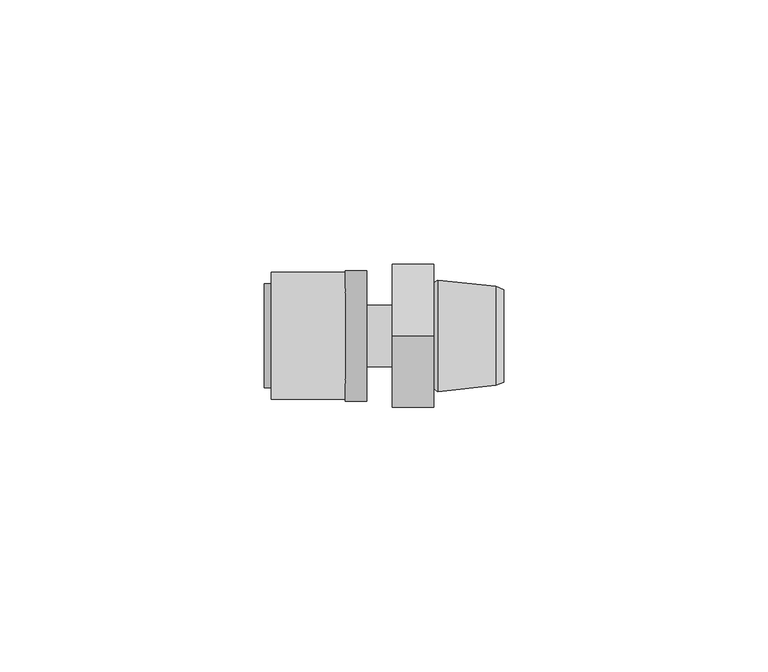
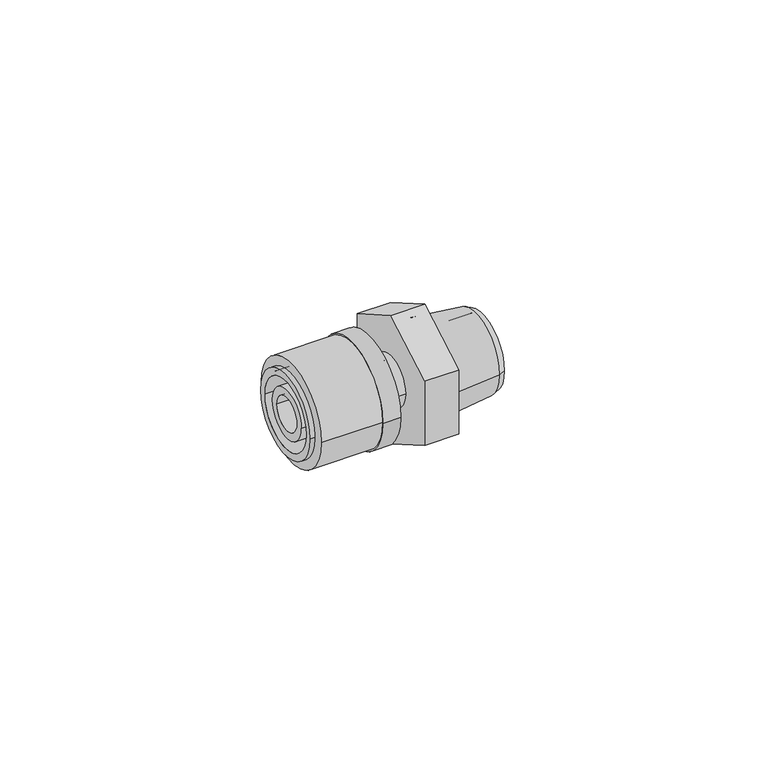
"""IFC4 building model written with IfcOpenShell, lengths in millimetres: pipe fitting geometry, FASTLOC_Adapter_LX, with external thread : FSL A C external CZ."""

from ifc_helpers import new_model, si_unit, point, frame, origin, origin_2d, place, context, project, spatial, polyline, circle_curve, trimmed, segment, composite_curve, outline, extrude, source, transform, mapped, element, save
from ifc_brep_helpers import plane_surface, cylinder_surface, revolved_surface, advanced_brep


def pipe_fitting_e93012df(model_context):
    return source(origin(), model_context, "Body", "SolidModel", [
        extrude(outline(composite_curve([segment(trimmed(circle_curve(origin_2d(), 12.0), [point((12.0, 0.0))], [point((-12.0, 0.0))], False, "CARTESIAN"), True, "CONTINUOUS"), segment(trimmed(circle_curve(origin_2d(), 12.0), [point((-12.0, 0.0))], [point((12.0, 0.0))], False, "CARTESIAN"), True, "CONTINUOUS")], self_intersect=False), holes=[composite_curve([segment(trimmed(circle_curve(origin_2d(), 8.85), [point((8.85, 0.0))], [point((-8.85, 0.0))], True, "CARTESIAN"), True, "CONTINUOUS"), segment(trimmed(circle_curve(origin_2d(), 8.85), [point((-8.85, 0.0))], [point((8.85, 0.0))], True, "CARTESIAN"), True, "CONTINUOUS")], self_intersect=False)]), frame((-22.9, 0.0, 0.0), z_axis=(1.0, 0.0, 0.0), x_axis=(0.0, 1.0, 0.0)), (0.0, 0.0, 1.0), 14.0),
        advanced_brep(
        [(-8.9, -12.35, 0.0), (-8.9, 12.35, 0.0), (-4.9, 12.35, 0.0), (-4.9, -12.35, 0.0), (-24.2, -9.85, 0.0), (-24.2, 9.85, 0.0), (-8.9, 9.85, 0.0), (-8.9, -9.85, 0.0), (-4.9, -8.15, 0.0), (-4.9, 8.15, 0.0), (-24.2, 8.15, 0.0), (-24.2, -8.15, 0.0)],
        [
            (0, 1, circle_curve(frame((-8.9, 0.0, 0.0), z_axis=(1.0, 0.0, 0.0), x_axis=(0.0, 1.0, 0.0)), 12.35)),
            (1, 2),
            (2, 3, circle_curve(frame((-4.9, 0.0, 0.0), z_axis=(-1.0, 0.0, 0.0), x_axis=(0.0, 1.0, 0.0)), 12.35)),
            (3, 0),
            (4, 5, circle_curve(frame((-24.2, 0.0, 0.0), z_axis=(1.0, 0.0, 0.0), x_axis=(0.0, 1.0, 0.0)), 9.85)),
            (5, 6),
            (6, 7, circle_curve(frame((-8.9, 0.0, 0.0), z_axis=(-1.0, 0.0, 0.0), x_axis=(0.0, 1.0, 0.0)), 9.85)),
            (7, 4),
            (8, 9, circle_curve(frame((-4.9, 0.0, 0.0), z_axis=(1.0, 0.0, 0.0), x_axis=(0.0, 1.0, 0.0)), 8.15)),
            (9, 10),
            (10, 11, circle_curve(frame((-24.2, 0.0, 0.0), z_axis=(-1.0, 0.0, 0.0), x_axis=(0.0, 1.0, 0.0)), 8.15)),
            (11, 8),
            (1, 0, circle_curve(frame((-8.9, 0.0, 0.0), z_axis=(1.0, 0.0, 0.0), x_axis=(0.0, -1.0, 0.0)), 12.35)),
            (3, 2, circle_curve(frame((-4.9, 0.0, 0.0), z_axis=(-1.0, 0.0, 0.0), x_axis=(0.0, -1.0, 0.0)), 12.35)),
            (6, 7, circle_curve(frame((-8.9, 0.0, 0.0), z_axis=(1.0, 0.0, 0.0), x_axis=(0.0, -1.0, 0.0)), 9.85)),
            (5, 4, circle_curve(frame((-24.2, 0.0, 0.0), z_axis=(1.0, 0.0, 0.0), x_axis=(0.0, -1.0, 0.0)), 9.85)),
            (10, 11, circle_curve(frame((-24.2, 0.0, 0.0), z_axis=(1.0, 0.0, 0.0), x_axis=(0.0, -1.0, 0.0)), 8.15)),
            (9, 8, circle_curve(frame((-4.9, 0.0, 0.0), z_axis=(1.0, 0.0, 0.0), x_axis=(0.0, -1.0, 0.0)), 8.15)),
        ],
        [
            cylinder_surface(frame((-4.9, 0.0, 0.0), z_axis=(-1.0, 0.0, 0.0), x_axis=(0.0, 1.0, 0.0)), 12.35),
            cylinder_surface(frame((-4.9, 0.0, 0.0), z_axis=(-1.0, 0.0, 0.0), x_axis=(0.0, 1.0, 0.0)), 9.85),
            revolved_surface(polyline([(-24.199999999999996, 8.15, 0.0), (-4.9, 8.15, 0.0)]), (-4.9, 0.0, 0.0), (-1.0, 0.0, 0.0)),
            cylinder_surface(frame((-4.9, 0.0, 0.0), z_axis=(-1.0, 0.0, 0.0), x_axis=(0.0, -1.0, 0.0)), 12.35),
            plane_surface(frame((-8.9, 0.0, 0.0), z_axis=(-1.0, 0.0, 0.0), x_axis=(0.0, -1.0, 0.0))),
            cylinder_surface(frame((-4.9, 0.0, 0.0), z_axis=(-1.0, 0.0, 0.0), x_axis=(0.0, -1.0, 0.0)), 9.85),
            plane_surface(frame((-24.2, 0.0, 0.0), z_axis=(-1.0, 0.0, 0.0), x_axis=(0.0, -1.0, 0.0))),
            revolved_surface(polyline([(-24.199999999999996, -8.15, 0.0), (-4.9, -8.15, 0.0)]), (-4.9, 0.0, 0.0), (-1.0, 0.0, 0.0)),
            plane_surface(frame((-4.9, 0.0, 0.0), z_axis=(1.0, 0.0, 0.0), x_axis=(0.0, -1.0, 0.0))),
        ],
        [
            (0, [[1, 2, 3, 4]]),
            (1, [[5, 6, 7, 8]]),
            (2, [[9, 10, 11, 12]]),
            (3, [[13, -4, 14, -2]]),
            (4, [[-13, -1], [15, -7]]),
            (5, [[16, -8, -15, -6]]),
            (6, [[-16, -5], [17, -11]]),
            (7, [[18, -12, -17, -10]]),
            (8, [[-14, -3], [-18, -9]]),
        ],
    ),
        advanced_brep(
        [(-8.9, 5.8, 0.0), (-8.9, -5.8, 0.0), (-23.9, -5.8, 0.0), (-23.9, 5.8, 0.0), (-6.2, 6.9, 0.0), (-6.2, -6.9, 0.0), (-8.9, -6.9, 0.0), (-8.9, 6.9, 0.0), (0.0, 5.8, 0.0), (0.0, -5.8, 0.0), (-6.2, -5.8, 0.0), (-6.2, 5.8, 0.0), (-23.9, 3.95, 0.0), (-23.9, -3.95, 0.0), (0.0, -3.95, 0.0), (0.0, 3.95, 0.0)],
        [
            (0, 1, circle_curve(frame((-8.9, 0.0, 0.0), z_axis=(-1.0, 0.0, 0.0), x_axis=(0.0, -1.0, 0.0)), 5.8)),
            (1, 2),
            (2, 3, circle_curve(frame((-23.9, 0.0, 0.0), z_axis=(1.0, 0.0, 0.0), x_axis=(0.0, -1.0, 0.0)), 5.8)),
            (3, 0),
            (4, 5, circle_curve(frame((-6.2, 0.0, 0.0), z_axis=(-1.0, 0.0, 0.0), x_axis=(0.0, -1.0, 0.0)), 6.9)),
            (5, 6),
            (6, 7, circle_curve(frame((-8.9, 0.0, 0.0), z_axis=(1.0, 0.0, 0.0), x_axis=(0.0, -1.0, 0.0)), 6.9)),
            (7, 4),
            (8, 9, circle_curve(frame((0.0, 0.0, 0.0), z_axis=(-1.0, 0.0, 0.0), x_axis=(0.0, -1.0, 0.0)), 5.8)),
            (9, 10),
            (10, 11, circle_curve(frame((-6.2, 0.0, 0.0), z_axis=(1.0, 0.0, 0.0), x_axis=(0.0, -1.0, 0.0)), 5.8)),
            (11, 8),
            (12, 13, circle_curve(frame((-23.9, 0.0, 0.0), z_axis=(-1.0, 0.0, 0.0), x_axis=(0.0, -1.0, 0.0)), 3.95)),
            (13, 14),
            (14, 15, circle_curve(frame((0.0, 0.0, 0.0), z_axis=(1.0, 0.0, 0.0), x_axis=(0.0, -1.0, 0.0)), 3.95)),
            (15, 12),
            (2, 3, circle_curve(frame((-23.9, 0.0, 0.0), z_axis=(-1.0, 0.0, 0.0), x_axis=(0.0, 1.0, 0.0)), 5.8)),
            (12, 13, circle_curve(frame((-23.9, 0.0, 0.0), z_axis=(1.0, 0.0, 0.0), x_axis=(0.0, 1.0, 0.0)), 3.95)),
            (1, 0, circle_curve(frame((-8.9, 0.0, 0.0), z_axis=(-1.0, 0.0, 0.0), x_axis=(0.0, 1.0, 0.0)), 5.8)),
            (6, 7, circle_curve(frame((-8.9, 0.0, 0.0), z_axis=(-1.0, 0.0, 0.0), x_axis=(0.0, 1.0, 0.0)), 6.9)),
            (5, 4, circle_curve(frame((-6.2, 0.0, 0.0), z_axis=(-1.0, 0.0, 0.0), x_axis=(0.0, 1.0, 0.0)), 6.9)),
            (10, 11, circle_curve(frame((-6.2, 0.0, 0.0), z_axis=(-1.0, 0.0, 0.0), x_axis=(0.0, 1.0, 0.0)), 5.8)),
            (9, 8, circle_curve(frame((0.0, 0.0, 0.0), z_axis=(-1.0, 0.0, 0.0), x_axis=(0.0, 1.0, 0.0)), 5.8)),
            (14, 15, circle_curve(frame((0.0, 0.0, 0.0), z_axis=(-1.0, 0.0, 0.0), x_axis=(0.0, 1.0, 0.0)), 3.95)),
        ],
        [
            cylinder_surface(frame((0.0, 0.0, 0.0), z_axis=(1.0, 0.0, 0.0), x_axis=(0.0, -1.0, 0.0)), 5.8),
            cylinder_surface(frame((0.0, 0.0, 0.0), z_axis=(1.0, 0.0, 0.0), x_axis=(0.0, -1.0, 0.0)), 6.9),
            revolved_surface(polyline([(0.0, -3.95, 0.0), (-23.9, -3.95, 0.0)]), (0.0, 0.0, 0.0), (1.0, 0.0, 0.0)),
            plane_surface(frame((-23.9, 0.0, 0.0), z_axis=(-1.0, 0.0, 0.0), x_axis=(0.0, 1.0, 0.0))),
            cylinder_surface(frame((0.0, 0.0, 0.0), z_axis=(1.0, 0.0, 0.0), x_axis=(0.0, 1.0, 0.0)), 5.8),
            plane_surface(frame((-8.9, 0.0, 0.0), z_axis=(-1.0, 0.0, 0.0), x_axis=(0.0, 1.0, 0.0))),
            cylinder_surface(frame((0.0, 0.0, 0.0), z_axis=(1.0, 0.0, 0.0), x_axis=(0.0, 1.0, 0.0)), 6.9),
            plane_surface(frame((-6.2, 0.0, 0.0), z_axis=(1.0, 0.0, 0.0), x_axis=(0.0, 1.0, 0.0))),
            plane_surface(frame((0.0, 0.0, 0.0), z_axis=(1.0, 0.0, 0.0), x_axis=(0.0, 1.0, 0.0))),
            revolved_surface(polyline([(0.0, 3.95, 0.0), (-23.9, 3.95, 0.0)]), (0.0, 0.0, 0.0), (1.0, 0.0, 0.0)),
        ],
        [
            (0, [[1, 2, 3, 4]]),
            (1, [[5, 6, 7, 8]]),
            (0, [[9, 10, 11, 12]]),
            (2, [[13, 14, 15, 16]]),
            (3, [[17, -3], [18, -13]]),
            (4, [[19, -4, -17, -2]]),
            (5, [[20, -7], [-19, -1]]),
            (6, [[21, -8, -20, -6]]),
            (7, [[-21, -5], [22, -11]]),
            (4, [[23, -12, -22, -10]]),
            (8, [[-23, -9], [24, -15]]),
            (9, [[-18, -16, -24, -14]]),
        ],
    ),
        advanced_brep(
        [(8.9032803, 7.5, 0.0), (8.9032803, -7.5, 0.0), (21.0, -7.5, 0.0), (21.0, 7.5, 0.0), (7.8, 6.3967197, 0.0), (7.8, -6.3967197, 0.0), (8.5406902, 10.55, 0.0), (8.5406902, -10.55, 0.0), (7.8, -10.0, 0.0), (7.8, 10.0, 0.0), (19.5000007, 9.35, 0.0), (19.5000007, -9.35, 0.0), (21.0, 8.725, 0.0), (21.0, -8.725, 0.0)],
        [
            (0, 1, circle_curve(frame((8.9032803, 0.0, 0.0), z_axis=(-1.0, 0.0, 0.0), x_axis=(0.0, -1.0, 0.0)), 7.5)),
            (1, 2),
            (2, 3, circle_curve(frame((21.0, 0.0, 0.0), z_axis=(1.0, 0.0, 0.0), x_axis=(0.0, -1.0, 0.0)), 7.5)),
            (3, 0),
            (4, 5, circle_curve(frame((7.8, 0.0, 0.0), z_axis=(-1.0, 0.0, 0.0), x_axis=(0.0, -1.0, 0.0)), 6.3967197)),
            (5, 1),
            (0, 4),
            (6, 7, circle_curve(frame((8.5406902, 0.0, 0.0), z_axis=(-1.0, 0.0, 0.0), x_axis=(0.0, -1.0, 0.0)), 10.55)),
            (7, 8),
            (8, 9, circle_curve(frame((7.8, 0.0, 0.0), z_axis=(1.0, 0.0, 0.0), x_axis=(0.0, -1.0, 0.0)), 10.0)),
            (9, 6),
            (10, 11, circle_curve(frame((19.5000007, 0.0, 0.0), z_axis=(-1.0, 0.0, 0.0), x_axis=(0.0, -1.0, 0.0)), 9.35)),
            (11, 7),
            (6, 10),
            (12, 13, circle_curve(frame((21.0, 0.0, 0.0), z_axis=(-1.0, 0.0, 0.0), x_axis=(0.0, -1.0, 0.0)), 8.725)),
            (13, 11),
            (10, 12),
            (1, 0, circle_curve(frame((8.9032803, 0.0, 0.0), z_axis=(-1.0, 0.0, 0.0), x_axis=(0.0, 1.0, 0.0)), 7.5)),
            (3, 2, circle_curve(frame((21.0, 0.0, 0.0), z_axis=(1.0, 0.0, 0.0), x_axis=(0.0, 1.0, 0.0)), 7.5)),
            (5, 4, circle_curve(frame((7.8, 0.0, 0.0), z_axis=(-1.0, 0.0, 0.0), x_axis=(0.0, 1.0, 0.0)), 6.3967197)),
            (8, 9, circle_curve(frame((7.8, 0.0, 0.0), z_axis=(-1.0, 0.0, 0.0), x_axis=(0.0, 1.0, 0.0)), 10.0)),
            (7, 6, circle_curve(frame((8.5406902, 0.0, 0.0), z_axis=(-1.0, 0.0, 0.0), x_axis=(0.0, 1.0, 0.0)), 10.55)),
            (11, 10, circle_curve(frame((19.5000007, 0.0, 0.0), z_axis=(-1.0, 0.0, 0.0), x_axis=(0.0, 1.0, 0.0)), 9.35)),
            (13, 12, circle_curve(frame((21.0, 0.0, 0.0), z_axis=(-1.0, 0.0, 0.0), x_axis=(0.0, 1.0, 0.0)), 8.725)),
        ],
        [
            revolved_surface(polyline([(21.0, -7.5, 0.0), (8.9032803, -7.5, 0.0)]), (0.0, 0.0, 0.0), (1.0, 0.0, 0.0)),
            revolved_surface(polyline([(8.9032803, -7.5, 0.0), (7.8, -6.3967197, 0.0)]), (0.0, 0.0, 0.0), (1.0, 0.0, 0.0)),
            revolved_surface(polyline([(7.8, -10.0, 0.0), (8.5406902, -10.55, 0.0)]), (0.0, 0.0, 0.0), (1.0, 0.0, 0.0)),
            revolved_surface(polyline([(8.5406902, -10.55, 0.0), (19.5000007, -9.35, 0.0)]), (0.0, 0.0, 0.0), (1.0, 0.0, 0.0)),
            revolved_surface(polyline([(19.5000007, -9.35, 0.0), (21.0, -8.725, 0.0)]), (0.0, 0.0, 0.0), (1.0, 0.0, 0.0)),
            revolved_surface(polyline([(21.0, 7.5, 0.0), (8.9032803, 7.5, 0.0)]), (0.0, 0.0, 0.0), (1.0, 0.0, 0.0)),
            revolved_surface(polyline([(8.9032803, 7.5, 0.0), (7.8, 6.3967197, 0.0)]), (0.0, 0.0, 0.0), (1.0, 0.0, 0.0)),
            plane_surface(frame((7.8, 0.0, 0.0), z_axis=(-1.0, 0.0, 0.0), x_axis=(0.0, 1.0, 0.0))),
            revolved_surface(polyline([(7.8, 10.0, 0.0), (8.5406902, 10.55, 0.0)]), (0.0, 0.0, 0.0), (1.0, 0.0, 0.0)),
            revolved_surface(polyline([(8.5406902, 10.55, 0.0), (19.5000007, 9.35, 0.0)]), (0.0, 0.0, 0.0), (1.0, 0.0, 0.0)),
            revolved_surface(polyline([(19.5000007, 9.35, 0.0), (21.0, 8.725, 0.0)]), (0.0, 0.0, 0.0), (1.0, 0.0, 0.0)),
            plane_surface(frame((21.0, 0.0, 0.0), z_axis=(1.0, 0.0, 0.0), x_axis=(0.0, 1.0, 0.0))),
        ],
        [
            (0, [[1, 2, 3, 4]]),
            (1, [[5, 6, -1, 7]]),
            (2, [[8, 9, 10, 11]]),
            (3, [[12, 13, -8, 14]]),
            (4, [[15, 16, -12, 17]]),
            (5, [[18, -4, 19, -2]]),
            (6, [[20, -7, -18, -6]]),
            (7, [[21, -10], [-20, -5]]),
            (8, [[22, -11, -21, -9]]),
            (9, [[23, -14, -22, -13]]),
            (10, [[24, -17, -23, -16]]),
            (11, [[-24, -15], [-19, -3]]),
        ],
    ),
        extrude(outline(polyline([(-13.5, 7.7942286), (0.0, 15.5884573), (13.5, 7.7942286), (13.5, -7.7942286), (0.0, -15.5884573), (-13.5, -7.7942286), (-13.5, 7.7942286)])), frame((0.0, 0.0, 0.0), z_axis=(1.0, 0.0, 0.0), x_axis=(0.0, 1.0, 0.0)), (0.0, 0.0, 1.0), 7.8),
    ])


if __name__ == "__main__":
    model = new_model("IFC4")
    model_context = context("Model", 3, world=origin())
    ifc_project = project(units=[si_unit("LENGTHUNIT", "METRE", prefix="MILLI")], contexts=[model_context])
    site = spatial("IfcSite", under=ifc_project)
    building = spatial("IfcBuilding", under=site)
    placement = place(None, origin())
    pipe_fitting_shape = pipe_fitting_e93012df(model_context)
    element("IfcPipeFitting", 1, ObjectType="FASTLOC_Adapter_LX, with external thread : FSL A C external CZ", at=placement, inside=building, context=model_context, shape_type="MappedRepresentation", body=[
        mapped(pipe_fitting_shape, transform((0.0, 0.0, 0.0), x_axis=(1.0, 0.0, 0.0), y_axis=(0.0, 1.0, 0.0), z_axis=(0.0, 0.0, 1.0))),
    ])
    save(model, "model.ifc")
